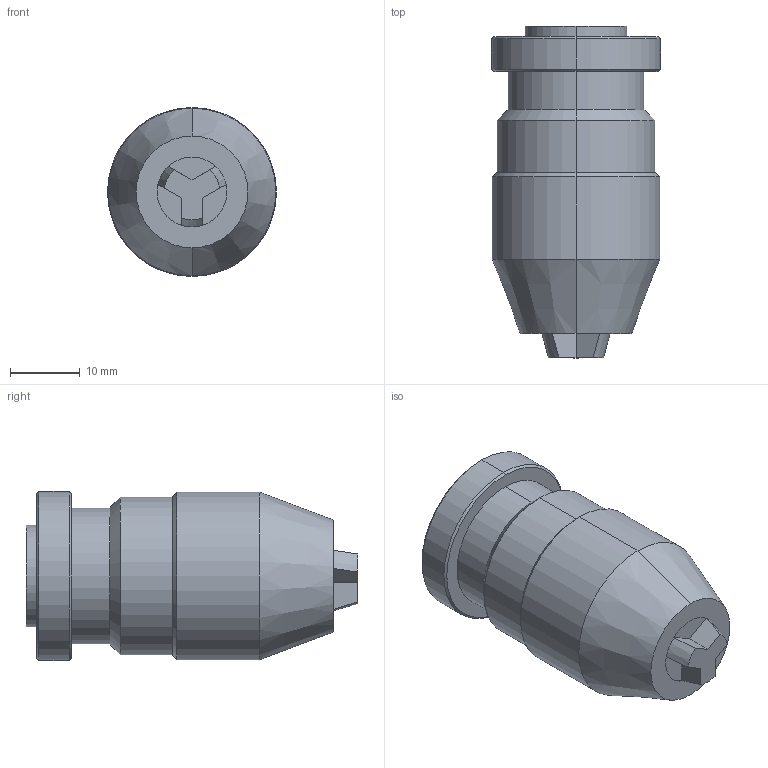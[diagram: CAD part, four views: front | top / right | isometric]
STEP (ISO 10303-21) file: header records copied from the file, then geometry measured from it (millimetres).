
FILE_DESCRIPTION (( 'STEP AP203' ), '1' );
FILE_NAME ('041J004004 Precision chuck Albrecht, B10, 0-3 mm.STEP', '2009-09-03T14:01:14', ( 'HP' ), ( '' ), 'SwSTEP 2.0', 'SolidWorks 2008', '' );
FILE_SCHEMA (( 'CONFIG_CONTROL_DESIGN' ));
Length unit declared in the file: millimetre
Products named in the file (1): 041J004004 Precision chuck Albrecht, B10, 0-3 mm
Bounding box: 24.2 x 47.5 x 24.2 mm (x, y, z)
Volume: 15433 mm3; surface area: 4572 mm2
Topology: 1 solids, 1 shells, 46 faces, 98 edges, 60 vertices
Faces by surface type: plane 17, cylinder 16, cone 13
Entity records: 1325 total; most frequent: DIRECTION 234, CARTESIAN_POINT 223, ORIENTED_EDGE 196, EDGE_CURVE 98, AXIS2_PLACEMENT_3D 95, VERTEX_POINT 60, EDGE_LOOP 52, CIRCLE 48
